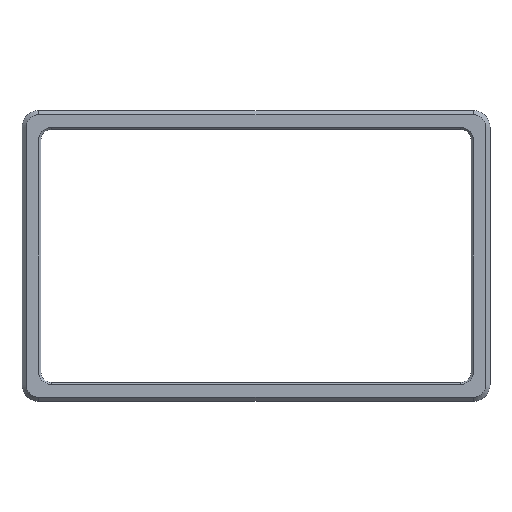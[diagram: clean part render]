
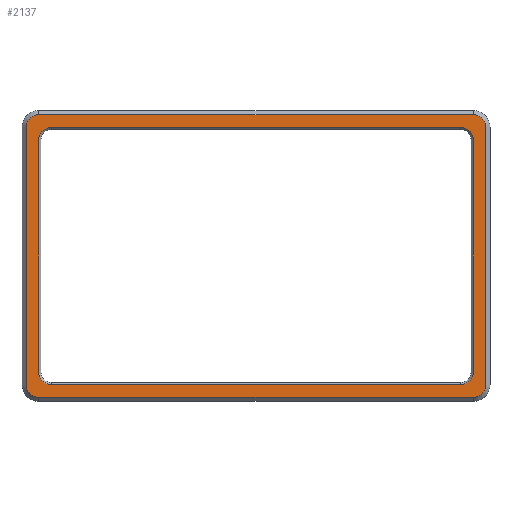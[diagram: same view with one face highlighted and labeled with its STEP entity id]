
A CAD part, front view. The second image highlights one B-rep face of the part: STEP entity #2137.
In plain terms, the highlighted planar face has unit normal (0, -1, 0).
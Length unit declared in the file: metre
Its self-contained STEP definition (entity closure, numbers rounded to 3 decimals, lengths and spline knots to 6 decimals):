
#86=CIRCLE('',#2306,0.006);
#87=CIRCLE('',#2307,0.006);
#88=CIRCLE('',#2308,0.006);
#89=CIRCLE('',#2309,0.006);
#90=CIRCLE('',#2310,0.006);
#91=CIRCLE('',#2311,0.006);
#92=CIRCLE('',#2312,0.006);
#93=CIRCLE('',#2313,0.006);
#324=ORIENTED_EDGE('',*,*,#905,.T.);
#325=ORIENTED_EDGE('',*,*,#906,.T.);
#326=ORIENTED_EDGE('',*,*,#907,.T.);
#327=ORIENTED_EDGE('',*,*,#908,.T.);
#328=ORIENTED_EDGE('',*,*,#909,.T.);
#329=ORIENTED_EDGE('',*,*,#910,.T.);
#330=ORIENTED_EDGE('',*,*,#911,.T.);
#331=ORIENTED_EDGE('',*,*,#912,.T.);
#332=ORIENTED_EDGE('',*,*,#913,.T.);
#333=ORIENTED_EDGE('',*,*,#914,.T.);
#334=ORIENTED_EDGE('',*,*,#915,.T.);
#335=ORIENTED_EDGE('',*,*,#916,.T.);
#336=ORIENTED_EDGE('',*,*,#917,.T.);
#337=ORIENTED_EDGE('',*,*,#918,.T.);
#338=ORIENTED_EDGE('',*,*,#919,.T.);
#339=ORIENTED_EDGE('',*,*,#920,.T.);
#905=EDGE_CURVE('',#1181,#1182,#1389,.T.);
#906=EDGE_CURVE('',#1182,#1183,#86,.T.);
#907=EDGE_CURVE('',#1183,#1184,#1390,.T.);
#908=EDGE_CURVE('',#1184,#1185,#87,.T.);
#909=EDGE_CURVE('',#1185,#1186,#1391,.T.);
#910=EDGE_CURVE('',#1186,#1187,#88,.T.);
#911=EDGE_CURVE('',#1187,#1188,#1392,.T.);
#912=EDGE_CURVE('',#1188,#1181,#89,.T.);
#913=EDGE_CURVE('',#1189,#1190,#1393,.T.);
#914=EDGE_CURVE('',#1190,#1191,#90,.F.);
#915=EDGE_CURVE('',#1191,#1192,#1394,.T.);
#916=EDGE_CURVE('',#1192,#1193,#91,.F.);
#917=EDGE_CURVE('',#1193,#1194,#1395,.T.);
#918=EDGE_CURVE('',#1194,#1195,#92,.F.);
#919=EDGE_CURVE('',#1195,#1196,#1396,.T.);
#920=EDGE_CURVE('',#1196,#1189,#93,.F.);
#1181=VERTEX_POINT('',#3373);
#1182=VERTEX_POINT('',#3374);
#1183=VERTEX_POINT('',#3376);
#1184=VERTEX_POINT('',#3378);
#1185=VERTEX_POINT('',#3380);
#1186=VERTEX_POINT('',#3382);
#1187=VERTEX_POINT('',#3384);
#1188=VERTEX_POINT('',#3386);
#1189=VERTEX_POINT('',#3389);
#1190=VERTEX_POINT('',#3390);
#1191=VERTEX_POINT('',#3392);
#1192=VERTEX_POINT('',#3394);
#1193=VERTEX_POINT('',#3396);
#1194=VERTEX_POINT('',#3398);
#1195=VERTEX_POINT('',#3400);
#1196=VERTEX_POINT('',#3402);
#1389=LINE('',#3372,#1635);
#1390=LINE('',#3377,#1636);
#1391=LINE('',#3381,#1637);
#1392=LINE('',#3385,#1638);
#1393=LINE('',#3388,#1639);
#1394=LINE('',#3393,#1640);
#1395=LINE('',#3397,#1641);
#1396=LINE('',#3401,#1642);
#1635=VECTOR('',#2693,1.);
#1636=VECTOR('',#2696,1.);
#1637=VECTOR('',#2699,1.);
#1638=VECTOR('',#2702,1.);
#1639=VECTOR('',#2705,1.);
#1640=VECTOR('',#2708,1.);
#1641=VECTOR('',#2711,1.);
#1642=VECTOR('',#2714,1.);
#1791=EDGE_LOOP('',(#324,#325,#326,#327,#328,#329,#330,#331));
#1792=EDGE_LOOP('',(#332,#333,#334,#335,#336,#337,#338,#339));
#1923=FACE_BOUND('',#1791,.T.);
#1924=FACE_BOUND('',#1792,.T.);
#2044=PLANE('',#2305);
#2137=ADVANCED_FACE('',(#1923,#1924),#2044,.T.);
#2305=AXIS2_PLACEMENT_3D('',#3371,#2691,#2692);
#2306=AXIS2_PLACEMENT_3D('',#3375,#2694,#2695);
#2307=AXIS2_PLACEMENT_3D('',#3379,#2697,#2698);
#2308=AXIS2_PLACEMENT_3D('',#3383,#2700,#2701);
#2309=AXIS2_PLACEMENT_3D('',#3387,#2703,#2704);
#2310=AXIS2_PLACEMENT_3D('',#3391,#2706,#2707);
#2311=AXIS2_PLACEMENT_3D('',#3395,#2709,#2710);
#2312=AXIS2_PLACEMENT_3D('',#3399,#2712,#2713);
#2313=AXIS2_PLACEMENT_3D('',#3403,#2715,#2716);
#2691=DIRECTION('',(0.,-1.,0.));
#2692=DIRECTION('',(1.,0.,0.));
#2693=DIRECTION('',(0.,0.,1.));
#2694=DIRECTION('',(0.,-1.,0.));
#2695=DIRECTION('',(0.,0.,-1.));
#2696=DIRECTION('',(-1.,0.,0.));
#2697=DIRECTION('',(0.,-1.,0.));
#2698=DIRECTION('',(0.,0.,-1.));
#2699=DIRECTION('',(0.,0.,-1.));
#2700=DIRECTION('',(0.,-1.,0.));
#2701=DIRECTION('',(0.,0.,-1.));
#2702=DIRECTION('',(1.,0.,0.));
#2703=DIRECTION('',(0.,-1.,0.));
#2704=DIRECTION('',(0.,0.,-1.));
#2705=DIRECTION('',(0.,0.,1.));
#2706=DIRECTION('',(0.,-1.,0.));
#2707=DIRECTION('',(0.,0.,-1.));
#2708=DIRECTION('',(1.,0.,0.));
#2709=DIRECTION('',(0.,-1.,0.));
#2710=DIRECTION('',(0.,0.,-1.));
#2711=DIRECTION('',(0.,0.,-1.));
#2712=DIRECTION('',(0.,-1.,0.));
#2713=DIRECTION('',(0.,0.,-1.));
#2714=DIRECTION('',(-1.,0.,0.));
#2715=DIRECTION('',(0.,-1.,0.));
#2716=DIRECTION('',(0.,0.,-1.));
#3371=CARTESIAN_POINT('',(0.,-0.01,0.));
#3372=CARTESIAN_POINT('',(0.1095,-0.01,0.));
#3373=CARTESIAN_POINT('',(0.1095,-0.01,-0.061305));
#3374=CARTESIAN_POINT('',(0.1095,-0.01,0.061305));
#3375=CARTESIAN_POINT('',(0.1035,-0.01,0.061305));
#3376=CARTESIAN_POINT('',(0.1035,-0.01,0.067305));
#3377=CARTESIAN_POINT('',(0.,-0.01,0.067305));
#3378=CARTESIAN_POINT('',(-0.1035,-0.01,0.067305));
#3379=CARTESIAN_POINT('',(-0.1035,-0.01,0.061305));
#3380=CARTESIAN_POINT('',(-0.1095,-0.01,0.061305));
#3381=CARTESIAN_POINT('',(-0.1095,-0.01,-0.061305));
#3382=CARTESIAN_POINT('',(-0.1095,-0.01,-0.061305));
#3383=CARTESIAN_POINT('',(-0.1035,-0.01,-0.061305));
#3384=CARTESIAN_POINT('',(-0.1035,-0.01,-0.067305));
#3385=CARTESIAN_POINT('',(0.1035,-0.01,-0.067305));
#3386=CARTESIAN_POINT('',(0.1035,-0.01,-0.067305));
#3387=CARTESIAN_POINT('',(0.1035,-0.01,-0.061305));
#3388=CARTESIAN_POINT('',(-0.1035,-0.01,0.));
#3389=CARTESIAN_POINT('',(-0.1035,-0.01,-0.055305));
#3390=CARTESIAN_POINT('',(-0.1035,-0.01,0.055305));
#3391=CARTESIAN_POINT('',(-0.0975,-0.01,0.055305));
#3392=CARTESIAN_POINT('',(-0.0975,-0.01,0.061305));
#3393=CARTESIAN_POINT('',(0.0975,-0.01,0.061305));
#3394=CARTESIAN_POINT('',(0.0975,-0.01,0.061305));
#3395=CARTESIAN_POINT('',(0.0975,-0.01,0.055305));
#3396=CARTESIAN_POINT('',(0.1035,-0.01,0.055305));
#3397=CARTESIAN_POINT('',(0.1035,-0.01,-0.055305));
#3398=CARTESIAN_POINT('',(0.1035,-0.01,-0.055305));
#3399=CARTESIAN_POINT('',(0.0975,-0.01,-0.055305));
#3400=CARTESIAN_POINT('',(0.0975,-0.01,-0.061305));
#3401=CARTESIAN_POINT('',(0.,-0.01,-0.061305));
#3402=CARTESIAN_POINT('',(-0.0975,-0.01,-0.061305));
#3403=CARTESIAN_POINT('',(-0.0975,-0.01,-0.055305));
